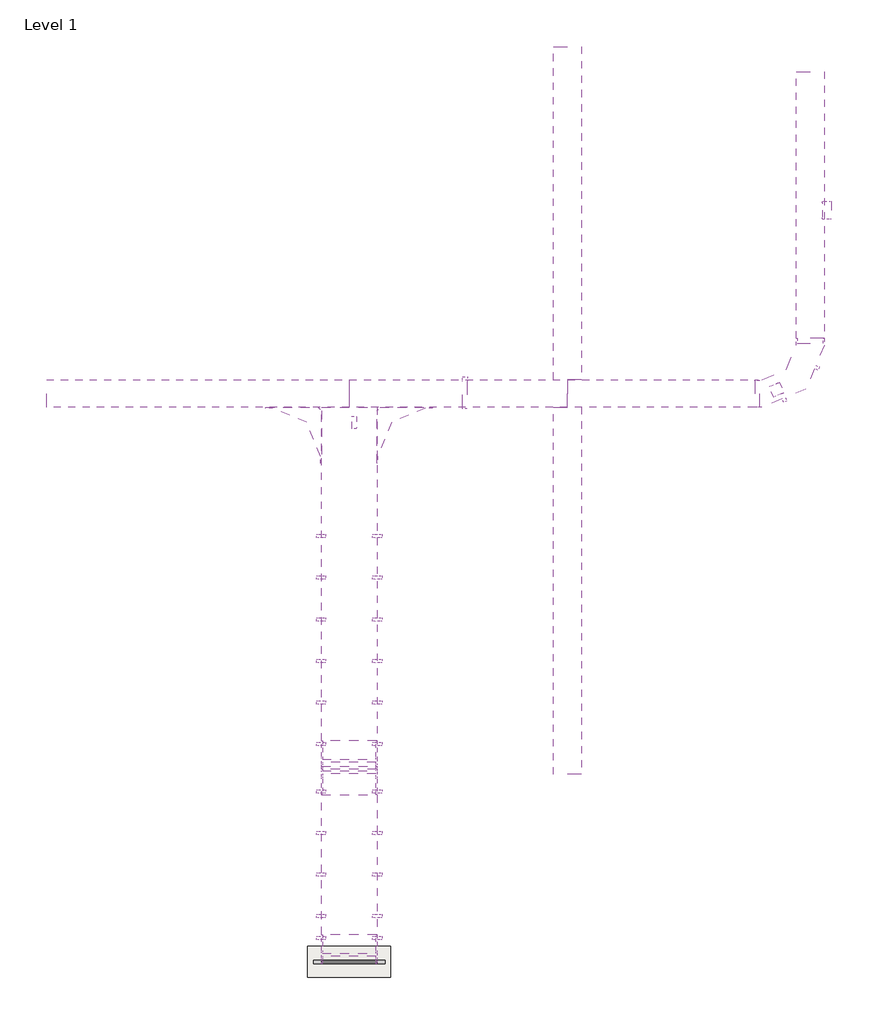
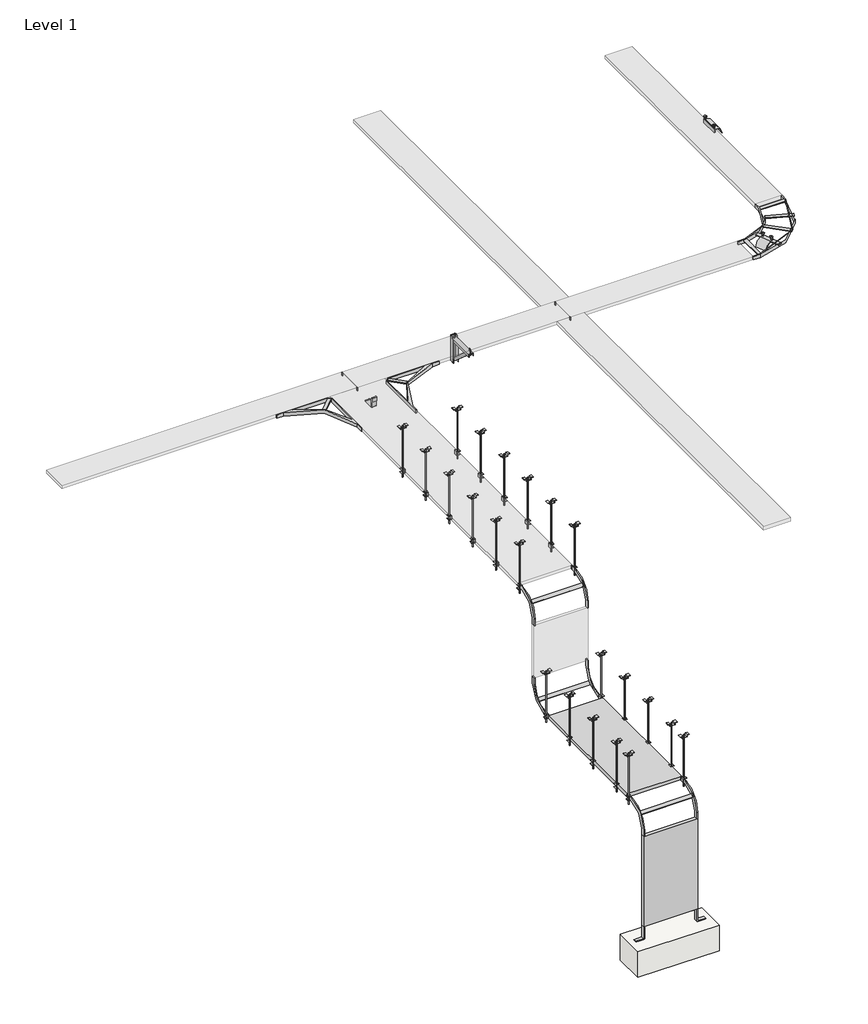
# One storey: 28 electric appliances, 10 cable carrier segments, 7 cable carrier fittings, 1 slab.
"""IFC4 building model written with IfcOpenShell, lengths in millimetres."""

from ifc_helpers import new_model, si_unit, frame, origin, place, context, project, spatial, polyline, outline, extrude, transform, mapped, element, save
from components import inside_2a2f5f30, outside_5760d18b, standard_0905c083, standard_ad48f5b5, cable_carrier_fitting_d5c9a402, electric_appliance_12_inch_tray_width_142ef2c2, electric_appliance_22094441, electric_appliance_93f43381, standard_cf8785e1, for_cross_member_4c8ecc23, for_stringer_cd5abf26

model = new_model("IFC4")

# Units and contexts
model_context = context("Model", 3, world=origin())
ifc_project = project(units=[si_unit("LENGTHUNIT", "METRE", prefix="MILLI")], contexts=[model_context])

# Site, building, storey
site = spatial("IfcSite", under=ifc_project)
building = spatial("IfcBuilding", under=site)
storey = spatial("IfcBuildingStorey", under=building, Name="Level 1", Elevation=0.0)

# Cable carrier fittings
placement = place(None, origin())
inside_shape = inside_2a2f5f30(model_context)
element("IfcCableCarrierFitting", 1, ObjectType="Cable_Tray_Fitting-Bend-Chatsworth-Vertical : Inside", at=placement, inside=storey, context=model_context, shape_type="MappedRepresentation", body=[
    mapped(inside_shape, transform((-6367.836991, -2349.9819704, 1524.0), x_axis=(0.0, 0.0, -1.0), y_axis=(0.0, -1.0, 0.0), z_axis=(-1.0, 0.0, 0.0))),
])
outside_shape = outside_5760d18b(model_context)
element("IfcCableCarrierFitting", 2, ObjectType="Cable_Tray_Fitting-Bend-Chatsworth-Vertical : Outside", at=placement, inside=storey, context=model_context, shape_type="MappedRepresentation", body=[
    mapped(outside_shape, transform((-6367.836991, -2349.9819704, 2743.2), x_axis=(0.0, 0.0, 1.0), y_axis=(0.0, 1.0, 0.0), z_axis=(-1.0, 0.0, 0.0))),
])
element("IfcCableCarrierFitting", 3, ObjectType="Cable_Tray_Fitting-Bend-Chatsworth-Vertical : Outside", at=placement, inside=storey, context=model_context, shape_type="MappedRepresentation", body=[
    mapped(outside_shape, transform((-6367.836991, -4483.5819704, 1524.0), x_axis=(0.0, -1.0, 0.0), y_axis=(0.0, 0.0, -1.0), z_axis=(1.0, 0.0, 0.0))),
])
standard_shape = standard_0905c083(model_context)
element("IfcCableCarrierFitting", 4, ObjectType="Cable_Tray_Accessory-Chatsworth-Foot_Kit : Standard", at=placement, inside=storey, context=model_context, shape_type="MappedRepresentation", body=[
    mapped(standard_shape, transform((-6367.836991, -4483.5819704, 152.4), x_axis=(0.0, 0.0, -1.0), y_axis=(1.0, 0.0, 0.0), z_axis=(0.0, -1.0, 0.0))),
])
standard_2_shape = standard_ad48f5b5(model_context)
element("IfcCableCarrierFitting", 5, ObjectType="Cable_Tray_Fitting-Bend-Chatsworth-Horizontal : Standard", at=placement, inside=storey, context=model_context, shape_type="MappedRepresentation", body=[
    mapped(standard_2_shape, transform((-1295.5517401, 1763.8962506, 2743.2), x_axis=(1.0, 0.0, 0.0), y_axis=(0.0, 1.0, 0.0), z_axis=(0.0, 0.0, 1.0))),
])
cable_carrier_fitting_shape = cable_carrier_fitting_d5c9a402(model_context)
element("IfcCableCarrierFitting", 6, ObjectType="Cable_Tray_Fitting-Intersection-Chatsworth-Tee : Universal, 12\" Spacing", at=placement, inside=storey, context=model_context, shape_type="MappedRepresentation", body=[
    mapped(cable_carrier_fitting_shape, transform((-6367.836991, 1763.8962506, 2743.2), x_axis=(1.0, 0.0, 0.0), y_axis=(0.0, 1.0, 0.0), z_axis=(0.0, 0.0, 1.0))),
])
element("IfcCableCarrierFitting", 7, ObjectType="Cable_Tray_Fitting-Intersection-Chatsworth-Cross : Universal, 12\" Spacing", at=placement, inside=storey, context=model_context, shape_type="MappedRepresentation", body=[
    mapped(cable_carrier_fitting_shape, transform((-3966.1236151, 1763.8962506, 2743.2), x_axis=(1.0, 0.0, 0.0), y_axis=(0.0, 1.0, 0.0), z_axis=(0.0, 0.0, 1.0))),
])

# Cable carrier segments
element("IfcCableCarrierSegment", 8, ObjectType="Cable_Tray_Run-System-Chatsworth   Universal, 12\" Spacing", at=placement, inside=storey, context=model_context, shape_type="SweptSolid", body=[
    extrude(outline(polyline([(-6063.036991, -2051.5319704), (-6672.636991, -2051.5319704), (-6672.636991, 1611.4962506), (-6063.036991, 1611.4962506), (-6063.036991, -2051.5319704)])), frame((0.0, 0.0, 2724.15), z_axis=(0.0, 0.0, 1.0), x_axis=(1.0, 0.0, 0.0)), (0.0, 0.0, 1.0), 38.1),
])
element("IfcCableCarrierSegment", 9, ObjectType="Cable_Tray_Run-System-Chatsworth   Universal, 12\" Spacing", at=placement, inside=storey, context=model_context, shape_type="SweptSolid", body=[
    extrude(outline(polyline([(-6369.424491, 1916.2962506), (-6369.424491, 1611.4962506), (-9696.824491, 1611.4962506), (-9696.824491, 1916.2962506), (-6369.424491, 1916.2962506)])), frame((0.0, 0.0, 2724.15), z_axis=(0.0, 0.0, 1.0), x_axis=(1.0, 0.0, 0.0)), (0.0, 0.0, 1.0), 38.1),
])
element("IfcCableCarrierSegment", 10, ObjectType="Cable_Tray_Run-System-Chatsworth   Universal, 12\" Spacing", at=placement, inside=storey, context=model_context, shape_type="SweptSolid", body=[
    extrude(outline(polyline([(-4118.5236151, 1611.4962506), (-3813.7236151, 1611.4962506), (-3813.7236151, -2422.6100954), (-4118.5236151, -2422.6100954), (-4118.5236151, 1611.4962506)])), frame((0.0, 0.0, 2724.15), z_axis=(0.0, 0.0, 1.0), x_axis=(1.0, 0.0, 0.0)), (0.0, 0.0, 1.0), 38.1),
])
element("IfcCableCarrierSegment", 11, ObjectType="Cable_Tray_Run-System-Chatsworth   Universal, 12\" Spacing", at=placement, inside=storey, context=model_context, shape_type="SweptSolid", body=[
    extrude(outline(polyline([(-3964.5361151, 1611.4962506), (-3964.5361151, 1916.2962506), (-1905.1517401, 1916.2962506), (-1905.1517401, 1611.4962506), (-3964.5361151, 1611.4962506)])), frame((0.0, 0.0, 2724.15), z_axis=(0.0, 0.0, 1.0), x_axis=(1.0, 0.0, 0.0)), (0.0, 0.0, 1.0), 38.1),
])
element("IfcCableCarrierSegment", 12, ObjectType="Cable_Tray_Run-System-Chatsworth   Universal, 12\" Spacing", at=placement, inside=storey, context=model_context, shape_type="SweptSolid", body=[
    extrude(outline(polyline([(-1143.1517401, 2373.4962506), (-1447.9517401, 2373.4962506), (-1447.9517401, 5298.9899046), (-1143.1517401, 5298.9899046), (-1143.1517401, 2373.4962506)])), frame((0.0, 0.0, 2724.15), z_axis=(0.0, 0.0, 1.0), x_axis=(1.0, 0.0, 0.0)), (0.0, 0.0, 1.0), 38.1),
])
element("IfcCableCarrierSegment", 13, ObjectType="Cable_Tray_Run-System-Chatsworth   Universal, 12\" Spacing", at=placement, inside=storey, context=model_context, shape_type="SweptSolid", body=[
    extrude(outline(polyline([(-6672.636991, -2648.4319704), (-6063.036991, -2648.4319704), (-6063.036991, -4185.1319704), (-6672.636991, -4185.1319704), (-6672.636991, -2648.4319704)])), frame((0.0, 0.0, 1504.95), z_axis=(0.0, 0.0, 1.0), x_axis=(1.0, 0.0, 0.0)), (0.0, 0.0, 1.0), 38.1),
])
element("IfcCableCarrierSegment", 14, ObjectType="Cable_Tray_Run-System-Chatsworth   Universal, 12\" Spacing", at=placement, inside=storey, context=model_context, shape_type="SweptSolid", body=[
    extrude(outline(polyline([(-6672.636991, -2330.9319704), (-6063.036991, -2330.9319704), (-6063.036991, -2369.0319704), (-6672.636991, -2369.0319704), (-6672.636991, -2330.9319704)])), frame((0.0, 0.0, 1822.45), z_axis=(0.0, 0.0, 1.0), x_axis=(1.0, 0.0, 0.0)), (0.0, 0.0, 1.0), 622.3),
])
element("IfcCableCarrierSegment", 15, ObjectType="Cable_Tray_Run-System-Chatsworth   Universal, 12\" Spacing", at=placement, inside=storey, context=model_context, shape_type="SweptSolid", body=[
    extrude(outline(polyline([(-6366.249491, 1611.4962506), (-6366.249491, 1916.2962506), (-3967.7111151, 1916.2962506), (-3967.7111151, 1611.4962506), (-6366.249491, 1611.4962506)])), frame((0.0, 0.0, 2724.15), z_axis=(0.0, 0.0, 1.0), x_axis=(1.0, 0.0, 0.0)), (0.0, 0.0, 1.0), 38.1),
])
element("IfcCableCarrierSegment", 16, ObjectType="Cable_Tray_Run-System-Chatsworth   Universal, 12\" Spacing", at=placement, inside=storey, context=model_context, shape_type="SweptSolid", body=[
    extrude(outline(polyline([(-3813.7236151, 1916.2962506), (-4118.5236151, 1916.2962506), (-4118.5236151, 5578.3899046), (-3813.7236151, 5578.3899046), (-3813.7236151, 1916.2962506)])), frame((0.0, 0.0, 2724.15), z_axis=(0.0, 0.0, 1.0), x_axis=(1.0, 0.0, 0.0)), (0.0, 0.0, 1.0), 38.1),
])
element("IfcCableCarrierSegment", 17, ObjectType="Cable_Tray_Run-System-Chatsworth   Universal, 12\" Spacing", at=placement, inside=storey, context=model_context, shape_type="SweptSolid", body=[
    extrude(outline(polyline([(-6672.636991, -4464.5319704), (-6063.036991, -4464.5319704), (-6063.036991, -4502.6319704), (-6672.636991, -4502.6319704), (-6672.636991, -4464.5319704)])), frame((0.0, 0.0, 152.4), z_axis=(0.0, 0.0, 1.0), x_axis=(1.0, 0.0, 0.0)), (0.0, 0.0, 1.0), 1073.15),
])

# Electric appliances
electric_appliance_12_inch_tray_width_shape = electric_appliance_12_inch_tray_width_142ef2c2(model_context)
element("IfcElectricAppliance", 18, ObjectType="Cable_Tray_Accessory-Chatsworth-Triangular Support Bracket : 12 Inch Tray Width", at=placement, inside=storey, context=model_context, shape_type="MappedRepresentation", body=[
    mapped(electric_appliance_12_inch_tray_width_shape, transform((-5093.8343757, 1916.2962506, 2724.15), x_axis=(0.0, -1.0, 0.0), y_axis=(-1.0, 0.0, 0.0), z_axis=(0.0, 0.0, -1.0))),
])
electric_appliance_shape = electric_appliance_22094441(model_context)
element("IfcElectricAppliance", 19, ObjectType="Cable_Tray_Accessory-Chatsworth-Corner Bracket : 24\" Wide", at=placement, inside=storey, context=model_context, shape_type="MappedRepresentation", body=[
    mapped(electric_appliance_shape, transform((-6063.036991, 1611.4962506, 2762.25), x_axis=(1.0, 0.0, 0.0), y_axis=(0.0, 0.0, 1.0), z_axis=(0.0, -1.0, 0.0))),
])
element("IfcElectricAppliance", 20, ObjectType="Cable_Tray_Accessory-Chatsworth-Corner Bracket : 24\" Wide", at=placement, inside=storey, context=model_context, shape_type="MappedRepresentation", body=[
    mapped(electric_appliance_shape, transform((-6672.636991, 1611.4962506, 2762.25), x_axis=(0.0, -1.0, 0.0), y_axis=(0.0, 0.0, 1.0), z_axis=(-1.0, 0.0, 0.0))),
])
electric_appliance_2_shape = electric_appliance_93f43381(model_context)
element("IfcElectricAppliance", 21, ObjectType="Cable_Tray_Accessory-Chatsworth-Threaded Ceiling Kit : 3/8\" Rod", at=placement, inside=storey, context=model_context, shape_type="MappedRepresentation", body=[
    mapped(electric_appliance_2_shape, transform((-6067.799491, -2610.3319704, 1543.05), x_axis=(0.0, 1.0, 0.0), y_axis=(-1.0, 0.0, 0.0), z_axis=(0.0, 0.0, 1.0))),
])
element("IfcElectricAppliance", 22, ObjectType="Cable_Tray_Accessory-Chatsworth-Threaded Ceiling Kit : 3/8\" Rod", at=placement, inside=storey, context=model_context, shape_type="MappedRepresentation", body=[
    mapped(electric_appliance_2_shape, transform((-6667.874491, -2610.3319704, 1543.05), x_axis=(0.0, -1.0, 0.0), y_axis=(1.0, 0.0, 0.0), z_axis=(0.0, 0.0, 1.0))),
])
element("IfcElectricAppliance", 23, ObjectType="Cable_Tray_Accessory-Chatsworth-Threaded Ceiling Kit : 3/8\" Rod", at=placement, inside=storey, context=model_context, shape_type="MappedRepresentation", body=[
    mapped(electric_appliance_2_shape, transform((-6067.799491, -2089.6319704, 2762.25), x_axis=(0.0, 1.0, 0.0), y_axis=(-1.0, 0.0, 0.0), z_axis=(0.0, 0.0, 1.0))),
])
element("IfcElectricAppliance", 24, ObjectType="Cable_Tray_Accessory-Chatsworth-Threaded Ceiling Kit : 3/8\" Rod", at=placement, inside=storey, context=model_context, shape_type="MappedRepresentation", body=[
    mapped(electric_appliance_2_shape, transform((-6667.874491, -2089.6319704, 2762.25), x_axis=(0.0, -1.0, 0.0), y_axis=(1.0, 0.0, 0.0), z_axis=(0.0, 0.0, 1.0))),
])
element("IfcElectricAppliance", 25, ObjectType="Cable_Tray_Accessory-Chatsworth-Threaded Ceiling Kit : 3/8\" Rod", at=placement, inside=storey, context=model_context, shape_type="MappedRepresentation", body=[
    mapped(electric_appliance_2_shape, transform((-6067.799491, -1632.4319704, 2762.25), x_axis=(0.0, 1.0, 0.0), y_axis=(-1.0, 0.0, 0.0), z_axis=(0.0, 0.0, 1.0))),
])
element("IfcElectricAppliance", 26, ObjectType="Cable_Tray_Accessory-Chatsworth-Threaded Ceiling Kit : 3/8\" Rod", at=placement, inside=storey, context=model_context, shape_type="MappedRepresentation", body=[
    mapped(electric_appliance_2_shape, transform((-6667.874491, -1632.4319704, 2762.25), x_axis=(0.0, -1.0, 0.0), y_axis=(1.0, 0.0, 0.0), z_axis=(0.0, 0.0, 1.0))),
])
element("IfcElectricAppliance", 27, ObjectType="Cable_Tray_Accessory-Chatsworth-Threaded Ceiling Kit : 3/8\" Rod", at=placement, inside=storey, context=model_context, shape_type="MappedRepresentation", body=[
    mapped(electric_appliance_2_shape, transform((-6067.799491, -1175.2319704, 2762.25), x_axis=(0.0, 1.0, 0.0), y_axis=(-1.0, 0.0, 0.0), z_axis=(0.0, 0.0, 1.0))),
])
element("IfcElectricAppliance", 28, ObjectType="Cable_Tray_Accessory-Chatsworth-Threaded Ceiling Kit : 3/8\" Rod", at=placement, inside=storey, context=model_context, shape_type="MappedRepresentation", body=[
    mapped(electric_appliance_2_shape, transform((-6667.874491, -1175.2319704, 2762.25), x_axis=(0.0, -1.0, 0.0), y_axis=(1.0, 0.0, 0.0), z_axis=(0.0, 0.0, 1.0))),
])
element("IfcElectricAppliance", 29, ObjectType="Cable_Tray_Accessory-Chatsworth-Threaded Ceiling Kit : 3/8\" Rod", at=placement, inside=storey, context=model_context, shape_type="MappedRepresentation", body=[
    mapped(electric_appliance_2_shape, transform((-6067.799491, -718.0319704, 2762.25), x_axis=(0.0, 1.0, 0.0), y_axis=(-1.0, 0.0, 0.0), z_axis=(0.0, 0.0, 1.0))),
])
element("IfcElectricAppliance", 30, ObjectType="Cable_Tray_Accessory-Chatsworth-Threaded Ceiling Kit : 3/8\" Rod", at=placement, inside=storey, context=model_context, shape_type="MappedRepresentation", body=[
    mapped(electric_appliance_2_shape, transform((-6667.874491, -718.0319704, 2762.25), x_axis=(0.0, -1.0, 0.0), y_axis=(1.0, 0.0, 0.0), z_axis=(0.0, 0.0, 1.0))),
])
element("IfcElectricAppliance", 31, ObjectType="Cable_Tray_Accessory-Chatsworth-Threaded Ceiling Kit : 3/8\" Rod", at=placement, inside=storey, context=model_context, shape_type="MappedRepresentation", body=[
    mapped(electric_appliance_2_shape, transform((-6067.799491, -260.8319704, 2762.25), x_axis=(0.0, 1.0, 0.0), y_axis=(-1.0, 0.0, 0.0), z_axis=(0.0, 0.0, 1.0))),
])
element("IfcElectricAppliance", 32, ObjectType="Cable_Tray_Accessory-Chatsworth-Threaded Ceiling Kit : 3/8\" Rod", at=placement, inside=storey, context=model_context, shape_type="MappedRepresentation", body=[
    mapped(electric_appliance_2_shape, transform((-6667.874491, -260.8319704, 2762.25), x_axis=(0.0, -1.0, 0.0), y_axis=(1.0, 0.0, 0.0), z_axis=(0.0, 0.0, 1.0))),
])
element("IfcElectricAppliance", 33, ObjectType="Cable_Tray_Accessory-Chatsworth-Threaded Ceiling Kit : 3/8\" Rod", at=placement, inside=storey, context=model_context, shape_type="MappedRepresentation", body=[
    mapped(electric_appliance_2_shape, transform((-6067.799491, 196.3680296, 2762.25), x_axis=(0.0, 1.0, 0.0), y_axis=(-1.0, 0.0, 0.0), z_axis=(0.0, 0.0, 1.0))),
])
element("IfcElectricAppliance", 34, ObjectType="Cable_Tray_Accessory-Chatsworth-Threaded Ceiling Kit : 3/8\" Rod", at=placement, inside=storey, context=model_context, shape_type="MappedRepresentation", body=[
    mapped(electric_appliance_2_shape, transform((-6667.874491, 196.3680296, 2762.25), x_axis=(0.0, -1.0, 0.0), y_axis=(1.0, 0.0, 0.0), z_axis=(0.0, 0.0, 1.0))),
])
element("IfcElectricAppliance", 35, ObjectType="Cable_Tray_Accessory-Chatsworth-Threaded Ceiling Kit : 3/8\" Rod", at=placement, inside=storey, context=model_context, shape_type="MappedRepresentation", body=[
    mapped(electric_appliance_2_shape, transform((-6067.799491, -3067.5319704, 1543.05), x_axis=(0.0, 1.0, 0.0), y_axis=(-1.0, 0.0, 0.0), z_axis=(0.0, 0.0, 1.0))),
])
element("IfcElectricAppliance", 36, ObjectType="Cable_Tray_Accessory-Chatsworth-Threaded Ceiling Kit : 3/8\" Rod", at=placement, inside=storey, context=model_context, shape_type="MappedRepresentation", body=[
    mapped(electric_appliance_2_shape, transform((-6667.874491, -3067.5319704, 1543.05), x_axis=(0.0, -1.0, 0.0), y_axis=(1.0, 0.0, 0.0), z_axis=(0.0, 0.0, 1.0))),
])
element("IfcElectricAppliance", 37, ObjectType="Cable_Tray_Accessory-Chatsworth-Threaded Ceiling Kit : 3/8\" Rod", at=placement, inside=storey, context=model_context, shape_type="MappedRepresentation", body=[
    mapped(electric_appliance_2_shape, transform((-6067.799491, -3524.7319704, 1543.05), x_axis=(0.0, 1.0, 0.0), y_axis=(-1.0, 0.0, 0.0), z_axis=(0.0, 0.0, 1.0))),
])
element("IfcElectricAppliance", 38, ObjectType="Cable_Tray_Accessory-Chatsworth-Threaded Ceiling Kit : 3/8\" Rod", at=placement, inside=storey, context=model_context, shape_type="MappedRepresentation", body=[
    mapped(electric_appliance_2_shape, transform((-6667.874491, -3524.7319704, 1543.05), x_axis=(0.0, -1.0, 0.0), y_axis=(1.0, 0.0, 0.0), z_axis=(0.0, 0.0, 1.0))),
])
element("IfcElectricAppliance", 39, ObjectType="Cable_Tray_Accessory-Chatsworth-Threaded Ceiling Kit : 3/8\" Rod", at=placement, inside=storey, context=model_context, shape_type="MappedRepresentation", body=[
    mapped(electric_appliance_2_shape, transform((-6067.799491, -3981.9319704, 1543.05), x_axis=(0.0, 1.0, 0.0), y_axis=(-1.0, 0.0, 0.0), z_axis=(0.0, 0.0, 1.0))),
])
element("IfcElectricAppliance", 40, ObjectType="Cable_Tray_Accessory-Chatsworth-Threaded Ceiling Kit : 3/8\" Rod", at=placement, inside=storey, context=model_context, shape_type="MappedRepresentation", body=[
    mapped(electric_appliance_2_shape, transform((-6667.874491, -3981.9319704, 1543.05), x_axis=(0.0, -1.0, 0.0), y_axis=(1.0, 0.0, 0.0), z_axis=(0.0, 0.0, 1.0))),
])
element("IfcElectricAppliance", 41, ObjectType="Cable_Tray_Accessory-Chatsworth-Threaded Ceiling Kit : 3/8\" Rod", at=placement, inside=storey, context=model_context, shape_type="MappedRepresentation", body=[
    mapped(electric_appliance_2_shape, transform((-6067.799491, -4223.2319704, 1543.05), x_axis=(0.0, 1.0, 0.0), y_axis=(-1.0, 0.0, 0.0), z_axis=(0.0, 0.0, 1.0))),
])
element("IfcElectricAppliance", 42, ObjectType="Cable_Tray_Accessory-Chatsworth-Threaded Ceiling Kit : 3/8\" Rod", at=placement, inside=storey, context=model_context, shape_type="MappedRepresentation", body=[
    mapped(electric_appliance_2_shape, transform((-6667.874491, -4223.2319704, 1543.05), x_axis=(0.0, -1.0, 0.0), y_axis=(1.0, 0.0, 0.0), z_axis=(0.0, 0.0, 1.0))),
])
standard_3_shape = standard_cf8785e1(model_context)
element("IfcElectricAppliance", 43, ObjectType="Cable_Tray_Accessory-Chatsworth-L_Bracket : Standard", at=placement, inside=storey, context=model_context, shape_type="MappedRepresentation", body=[
    mapped(standard_3_shape, transform((-6313.1415861, 1382.6274046, 2762.25), x_axis=(-1.0, 0.0, 0.0), y_axis=(0.0, -1.0, 0.0), z_axis=(0.0, 0.0, 1.0))),
])
for_cross_member_shape = for_cross_member_4c8ecc23(model_context)
element("IfcElectricAppliance", 44, ObjectType="Cable_Tray_Accessory-Chatsworth-Radius Drop : for Cross Member", at=placement, inside=storey, context=model_context, shape_type="MappedRepresentation", body=[
    mapped(for_cross_member_shape, transform((-1631.4840351, 1820.5670391, 2759.86748), x_axis=(0.38268343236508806, -0.9238795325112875, 0.0), y_axis=(0.9238795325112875, 0.38268343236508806, 0.0), z_axis=(0.0, 0.0, 1.0))),
])
for_stringer_shape = for_stringer_cd5abf26(model_context)
element("IfcElectricAppliance", 45, ObjectType="Cable_Tray_Accessory-Chatsworth-Radius Drop : for Stringer", at=placement, inside=storey, context=model_context, shape_type="MappedRepresentation", body=[
    mapped(for_stringer_shape, transform((-1147.9142401, 3778.728959, 2762.25), x_axis=(0.0, 1.0, 0.0), y_axis=(-1.0, 0.0, 0.0), z_axis=(0.0, 0.0, 1.0))),
])

# Slab
element("IfcSlab", 46, ObjectType="Generic - 12\"", at=placement, inside=storey, context=model_context, shape_type="SweptSolid", body=[
    extrude(outline(polyline([(-5910.636991, -4655.0319704), (-6825.036991, -4655.0319704), (-6825.036991, -4312.1319704), (-5910.636991, -4312.1319704), (-5910.636991, -4655.0319704)])), frame((0.0, 0.0, -304.8), z_axis=(0.0, 0.0, 1.0), x_axis=(1.0, 0.0, 0.0)), (0.0, 0.0, 1.0), 304.8),
])

save(model, "model.ifc")
